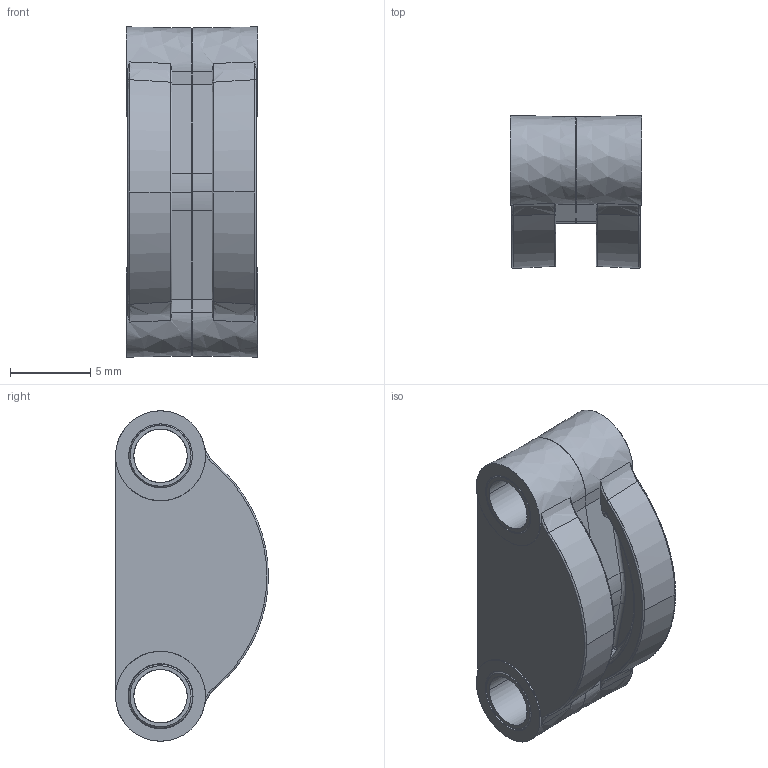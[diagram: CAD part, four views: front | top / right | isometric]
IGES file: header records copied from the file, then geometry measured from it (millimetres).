
Global section: file name: H:\F10\PDF aktuell\15300906_MBD F10.igs; native system: AutoCAD-17.2s (LMS Tech) (Microsoft Windows NT Version 5.1 (x86)); preprocessor: Autodesk IGES Translator Mechanical Desktop 2009 (Jun 25 2008) from Autodesk, Inc.; date: 20110414.114917; units: millimetre
Bounding box: 8.2 x 9.53 x 20.6 mm (x, y, z)
Surface area: 1627.9 mm2 (no closed solid volume)
Topology: 0 solids, 0 shells, 556 faces, 3776 edges, 3776 vertices
Faces by surface type: bspline 556
